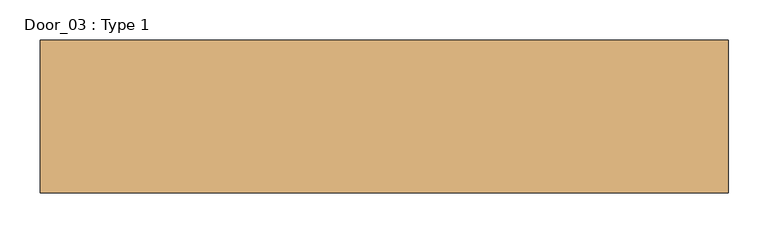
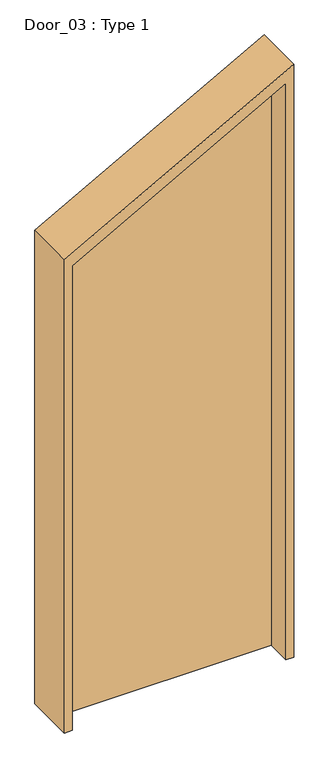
"""IFC4 building model written with IfcOpenShell, lengths in millimetres: door geometry, Door_03 : Type 1."""

from ifc_helpers import new_model, si_unit, frame, origin, place, context, project, spatial, polyline, outline, extrude, source, transform, mapped, element, save


def door_03_type_1_889ccfd0(model_context):
    return source(origin(), model_context, "Body", "SweptSolid", [
        extrude(outline(polyline([(2350.0, 430.0), (1876.0, -430.0), (0.0, -430.0), (0.0, -400.0), (1841.8139535, -400.0), (2284.1860465, 400.0), (0.0, 400.0), (0.0, 430.0), (2350.0, 430.0)])), frame((0.0, -100.3375361, 0.0), z_axis=(0.0, 1.0, 0.0), x_axis=(0.0, 0.0, 1.0)), (0.0, 0.0, 1.0), 191.3619312),
        extrude(outline(polyline([(2284.1860465, 400.0), (1841.8139535, -400.0), (0.0, -400.0), (0.0, 400.0), (2284.1860465, 400.0)])), frame((0.0, -6.5044371, 0.0), z_axis=(0.0, 1.0, 0.0), x_axis=(0.0, 0.0, 1.0)), (0.0, 0.0, 1.0), 50.0),
    ])


if __name__ == "__main__":
    model = new_model("IFC4")
    model_context = context("Model", 3, world=origin())
    ifc_project = project(units=[si_unit("LENGTHUNIT", "METRE", prefix="MILLI")], contexts=[model_context])
    site = spatial("IfcSite", under=ifc_project)
    building = spatial("IfcBuilding", under=site)
    placement = place(None, origin())
    door_03_type_1_shape = door_03_type_1_889ccfd0(model_context)
    element("IfcDoor", 1, ObjectType="Door_03 : Type 1", at=placement, inside=building, context=model_context, shape_type="MappedRepresentation", body=[
        mapped(door_03_type_1_shape, transform((0.0, 0.0, 0.0), x_axis=(1.0, 0.0, 0.0), y_axis=(0.0, 1.0, 0.0), z_axis=(0.0, 0.0, 1.0))),
    ])
    save(model, "model.ifc")
